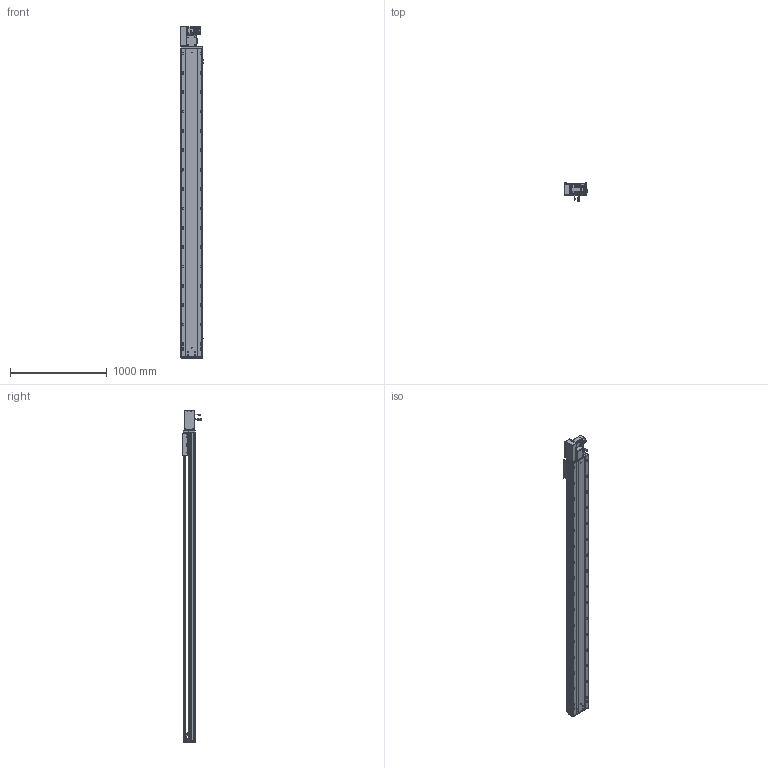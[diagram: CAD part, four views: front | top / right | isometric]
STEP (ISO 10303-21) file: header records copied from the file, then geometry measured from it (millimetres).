
FILE_DESCRIPTION (( 'STEP AP203' ), '1' );
FILE_NAME ('RY220-T-300-LK.SLDASM_2850.step', '2022-07-25T08:16:26', ( '' ), ( '' ), 'SwSTEP 2.0', 'SolidWorks 2016', '' );
FILE_SCHEMA (( 'CONFIG_CONTROL_DESIGN' ));
Length unit declared in the file: millimetre
Products named in the file (14): RY220圉猾敕々湍臏賑輸; RY220翋肮祭謫裔啣; RY220-T-300-奻裔啣_2850; RY220-T菁釱-300_2850; 覜茼ん672; RY220翋肮祭謫釱; RY220-同步轮副支撑座6304×2; RY220-T-湍謫欶(鍼踢); 滅袉蝶18-15; RY220-T-300-LK.SLDASM_2850; 怢湛750W_ECMA-CX0807ES; RY220-俋离672覜茼んえ; RY220-T-蛌殏萇儂假蚾啣(750W); 110A-T-肮祭謫釱傷裔
Assembly tree (18 placements, depth 2):
  RY220-T-300-LK.SLDASM_2850
    RY220-T菁釱-300_2850
    RY220翋肮祭謫釱
    覜茼ん672  x3
    RY220圉猾敕々湍臏賑輸
    RY220-T-300-奻裔啣_2850
    RY220-俋离672覜茼んえ
    滅袉蝶18-15  x3
    RY220翋肮祭謫裔啣  x2
    110A-T-肮祭謫釱傷裔
    怢湛750W_ECMA-CX0807ES
    RY220-T-湍謫欶(鍼踢)
    RY220-T-蛌殏萇儂假蚾啣(750W)
    RY220-同步轮副支撑座6304×2
Bounding box: 239.7 x 198.77 x 3429 mm (x, y, z)
Volume: 24228912.1 mm3; surface area: 7483668.2 mm2
Topology: 19 solids, 19 shells, 3012 faces, 8335 edges, 5220 vertices
Faces by surface type: cylinder 1488, plane 1069, cone 373, bspline 56, sphere 16, torus 10
Entity records: 100515 total; most frequent: CARTESIAN_POINT 28367, ORIENTED_EDGE 14906, DIRECTION 14396, EDGE_CURVE 7453, AXIS2_PLACEMENT_3D 5198, VERTEX_POINT 4844, VECTOR 4000, LINE 4000
